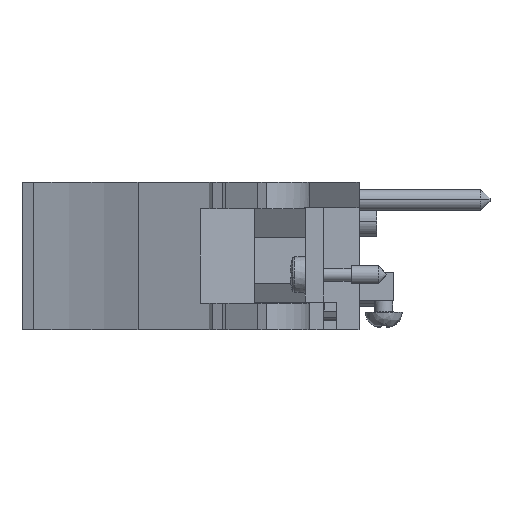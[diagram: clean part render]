
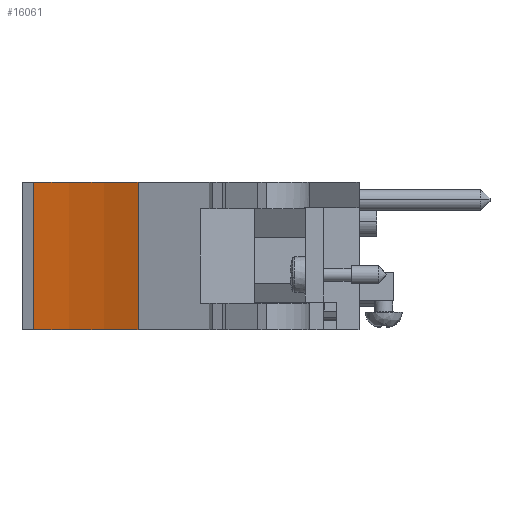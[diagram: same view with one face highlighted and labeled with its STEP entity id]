
A CAD part, front view. The second image highlights one B-rep face of the part: STEP entity #16061.
In plain terms, the highlighted cylindrical face has radius 51.46 mm (diameter 102.919 mm), a partial arc.
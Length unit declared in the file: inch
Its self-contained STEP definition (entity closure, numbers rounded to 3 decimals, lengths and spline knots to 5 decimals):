
#240=CARTESIAN_POINT('',(-2.05333,-5.94808,-0.093));
#241=DIRECTION('',(0.,0.,1.));
#242=DIRECTION('',(0.435,0.9,0.));
#243=AXIS2_PLACEMENT_3D('',#240,#241,#242);
#2970=CARTESIAN_POINT('',(-2.05333,-5.94808,0.695));
#2971=DIRECTION('',(0.,0.,1.));
#2972=DIRECTION('',(0.435,0.9,0.));
#2973=AXIS2_PLACEMENT_3D('',#2970,#2971,#2972);
#3295=DIRECTION('',(0.,0.,1.));
#3296=VECTOR('',#3295,0.788);
#3297=CARTESIAN_POINT('',(-1.17203,-4.12384,-0.093));
#3298=LINE('',#3297,#3296);
#3311=DIRECTION('',(0.,0.,1.));
#3312=VECTOR('',#3311,0.788);
#3313=CARTESIAN_POINT('',(-1.73,-3.94808,-0.093));
#3314=LINE('',#3313,#3312);
#10334=CARTESIAN_POINT('',(-1.17203,-4.12384,-0.093));
#10335=CARTESIAN_POINT('',(-1.73,-3.94808,-0.093));
#10336=VERTEX_POINT('',#10334);
#10337=VERTEX_POINT('',#10335);
#10338=CARTESIAN_POINT('',(-1.17203,-4.12384,0.695));
#10339=CARTESIAN_POINT('',(-1.73,-3.94808,0.695));
#10340=VERTEX_POINT('',#10338);
#10341=VERTEX_POINT('',#10339);
#16049=CARTESIAN_POINT('',(-2.05333,-5.94808,0.695));
#16050=DIRECTION('',(0.,0.,1.));
#16051=DIRECTION('',(0.,1.,0.));
#16052=AXIS2_PLACEMENT_3D('',#16049,#16050,#16051);
#16053=CYLINDRICAL_SURFACE('',#16052,2.02597);
#16054=ORIENTED_EDGE('',*,*,#12356,.T.);
#16056=ORIENTED_EDGE('',*,*,#16055,.T.);
#16057=ORIENTED_EDGE('',*,*,#15633,.F.);
#16058=ORIENTED_EDGE('',*,*,#16034,.F.);
#16059=EDGE_LOOP('',(#16054,#16056,#16057,#16058));
#16060=FACE_OUTER_BOUND('',#16059,.F.);
#16061=ADVANCED_FACE('',(#16060),#16053,.F.);
#244=CIRCLE('',#243,2.02597);
#2974=CIRCLE('',#2973,2.02597);
#12356=EDGE_CURVE('',#10336,#10337,#244,.T.);
#15633=EDGE_CURVE('',#10340,#10341,#2974,.T.);
#16034=EDGE_CURVE('',#10336,#10340,#3298,.T.);
#16055=EDGE_CURVE('',#10337,#10341,#3314,.T.);
